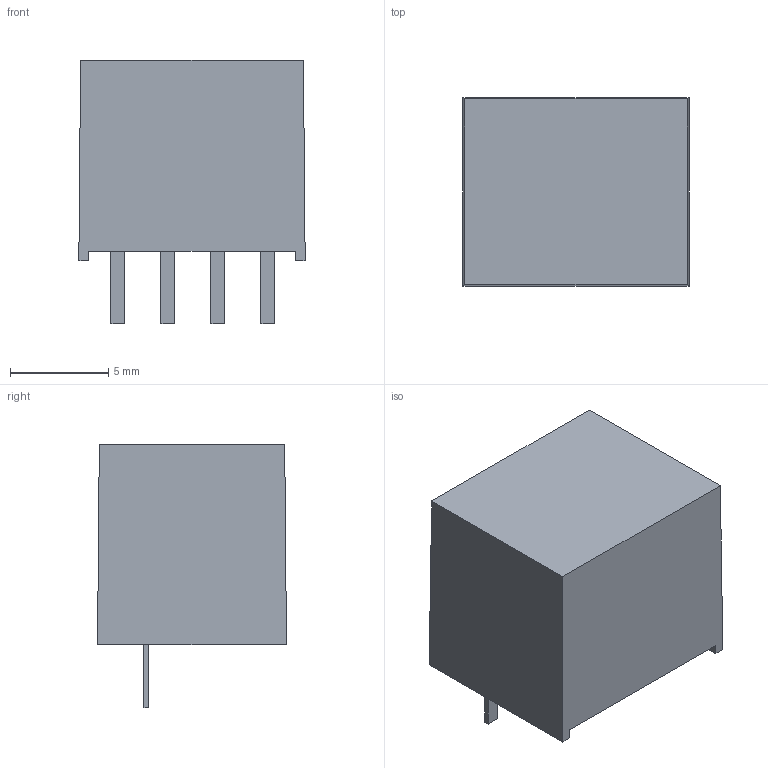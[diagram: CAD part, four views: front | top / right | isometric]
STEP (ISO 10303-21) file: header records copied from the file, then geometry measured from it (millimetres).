
FILE_DESCRIPTION (( 'STEP AP203' ), '1' );
FILE_NAME ('SIP TMU 3 (MBSU03)11.5x10.2x9.6.STEP', '2022-03-23T09:37:35', ( '' ), ( '' ), 'SwSTEP 2.0', 'SolidWorks 2021', '' );
FILE_SCHEMA (( 'CONFIG_CONTROL_DESIGN' ));
Length unit declared in the file: millimetre
Products named in the file (1): SIP TMU 3 (MBSU03)11.5x10.2x9.6
Bounding box: 11.5 x 9.6 x 13.4 mm (x, y, z)
Volume: 1059.2 mm3; surface area: 671.1 mm2
Topology: 1 solids, 1 shells, 33 faces, 78 edges, 52 vertices
Faces by surface type: plane 31, cylinder 2
Entity records: 1013 total; most frequent: CARTESIAN_POINT 164, ORIENTED_EDGE 156, DIRECTION 150, EDGE_CURVE 78, VECTOR 74, LINE 74, VERTEX_POINT 52, EDGE_LOOP 38
